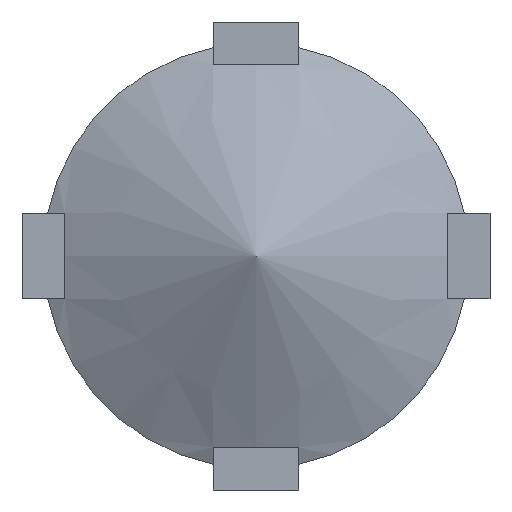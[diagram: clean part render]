
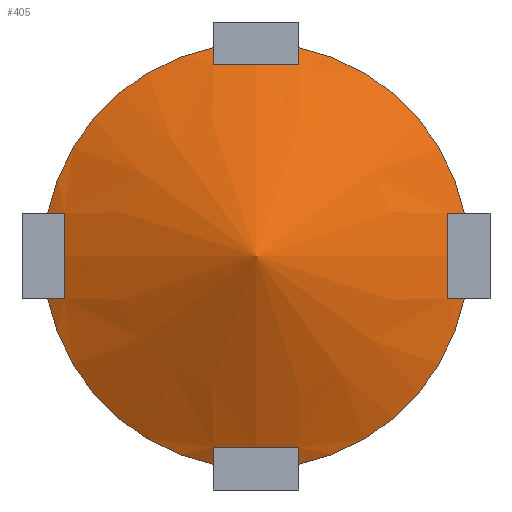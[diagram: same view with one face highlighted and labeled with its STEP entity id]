
A CAD part, front view. The second image highlights one B-rep face of the part: STEP entity #405.
In plain terms, the highlighted conical face has half-angle 65 degrees and reference radius 63.5 mm.
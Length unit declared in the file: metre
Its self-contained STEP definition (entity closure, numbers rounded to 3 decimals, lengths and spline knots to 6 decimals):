
#121=B_SPLINE_CURVE_WITH_KNOTS('',3,(#570,#571,#572,#573),.UNSPECIFIED.,.F.,.F.,(4,4),(0.034745,0.040315),.UNSPECIFIED.);
#122=B_SPLINE_CURVE_WITH_KNOTS('',3,(#575,#576,#577,#578,#579,#580),.UNSPECIFIED.,.F.,.F.,(4,1,1,4),(0.039915,0.052513,0.058812,0.065112),.UNSPECIFIED.);
#123=B_SPLINE_CURVE_WITH_KNOTS('',3,(#582,#583,#584,#585),.UNSPECIFIED.,.F.,.F.,(4,4),(0.034745,0.040315),.UNSPECIFIED.);
#124=B_SPLINE_CURVE_WITH_KNOTS('',3,(#589,#590,#591,#592),.UNSPECIFIED.,.F.,.F.,(4,4),(0.034745,0.040315),.UNSPECIFIED.);
#125=B_SPLINE_CURVE_WITH_KNOTS('',3,(#594,#595,#596,#597,#598,#599),.UNSPECIFIED.,.F.,.F.,(4,1,1,4),(0.039915,0.052513,0.058812,0.065112),.UNSPECIFIED.);
#126=B_SPLINE_CURVE_WITH_KNOTS('',3,(#601,#602,#603,#604),.UNSPECIFIED.,.F.,.F.,(4,4),(0.034745,0.040315),.UNSPECIFIED.);
#127=B_SPLINE_CURVE_WITH_KNOTS('',3,(#608,#609,#610,#611),.UNSPECIFIED.,.F.,.F.,(4,4),(0.034745,0.040315),.UNSPECIFIED.);
#128=B_SPLINE_CURVE_WITH_KNOTS('',3,(#613,#614,#615,#616,#617,#618),.UNSPECIFIED.,.F.,.F.,(4,1,1,4),(0.039915,0.052513,0.058812,0.065112),.UNSPECIFIED.);
#129=B_SPLINE_CURVE_WITH_KNOTS('',3,(#620,#621,#622,#623),.UNSPECIFIED.,.F.,.F.,(4,4),(0.034745,0.040315),.UNSPECIFIED.);
#130=B_SPLINE_CURVE_WITH_KNOTS('',3,(#627,#628,#629,#630),.UNSPECIFIED.,.F.,.F.,(4,4),(0.034745,0.040315),.UNSPECIFIED.);
#131=B_SPLINE_CURVE_WITH_KNOTS('',3,(#632,#633,#634,#635,#636,#637),.UNSPECIFIED.,.F.,.F.,(4,1,1,4),(0.039915,0.052513,0.058812,0.065112),.UNSPECIFIED.);
#132=B_SPLINE_CURVE_WITH_KNOTS('',3,(#639,#640,#641,#642),.UNSPECIFIED.,.F.,.F.,(4,4),(0.034745,0.040315),.UNSPECIFIED.);
#133=ORIENTED_EDGE('',*,*,#253,.T.);
#134=ORIENTED_EDGE('',*,*,#254,.T.);
#135=ORIENTED_EDGE('',*,*,#255,.T.);
#136=ORIENTED_EDGE('',*,*,#256,.F.);
#137=ORIENTED_EDGE('',*,*,#257,.T.);
#138=ORIENTED_EDGE('',*,*,#258,.T.);
#139=ORIENTED_EDGE('',*,*,#259,.T.);
#140=ORIENTED_EDGE('',*,*,#260,.F.);
#141=ORIENTED_EDGE('',*,*,#261,.T.);
#142=ORIENTED_EDGE('',*,*,#262,.T.);
#143=ORIENTED_EDGE('',*,*,#263,.F.);
#144=ORIENTED_EDGE('',*,*,#264,.F.);
#145=ORIENTED_EDGE('',*,*,#265,.T.);
#146=ORIENTED_EDGE('',*,*,#266,.T.);
#147=ORIENTED_EDGE('',*,*,#267,.F.);
#148=ORIENTED_EDGE('',*,*,#268,.F.);
#253=EDGE_CURVE('',#340,#341,#313,.T.);
#254=EDGE_CURVE('',#341,#342,#121,.T.);
#255=EDGE_CURVE('',#342,#343,#122,.T.);
#256=EDGE_CURVE('',#344,#343,#123,.T.);
#257=EDGE_CURVE('',#344,#345,#314,.T.);
#258=EDGE_CURVE('',#345,#346,#124,.T.);
#259=EDGE_CURVE('',#346,#347,#125,.T.);
#260=EDGE_CURVE('',#348,#347,#126,.T.);
#261=EDGE_CURVE('',#348,#349,#315,.T.);
#262=EDGE_CURVE('',#349,#350,#127,.T.);
#263=EDGE_CURVE('',#351,#350,#128,.T.);
#264=EDGE_CURVE('',#352,#351,#129,.T.);
#265=EDGE_CURVE('',#352,#353,#316,.T.);
#266=EDGE_CURVE('',#353,#354,#130,.T.);
#267=EDGE_CURVE('',#355,#354,#131,.T.);
#268=EDGE_CURVE('',#340,#355,#132,.T.);
#313=CIRCLE('',#441,0.0635);
#314=CIRCLE('',#442,0.0635);
#315=CIRCLE('',#443,0.0635);
#316=CIRCLE('',#444,0.0635);
#317=EDGE_LOOP('',(#133,#134,#135,#136,#137,#138,#139,#140,#141,#142,#143,#144,#145,#146,#147,#148));
#339=VERTEX_POINT('',#566);
#340=VERTEX_POINT('',#568);
#341=VERTEX_POINT('',#569);
#342=VERTEX_POINT('',#574);
#343=VERTEX_POINT('',#581);
#344=VERTEX_POINT('',#586);
#345=VERTEX_POINT('',#588);
#346=VERTEX_POINT('',#593);
#347=VERTEX_POINT('',#600);
#348=VERTEX_POINT('',#605);
#349=VERTEX_POINT('',#607);
#350=VERTEX_POINT('',#612);
#351=VERTEX_POINT('',#619);
#352=VERTEX_POINT('',#624);
#353=VERTEX_POINT('',#626);
#354=VERTEX_POINT('',#631);
#355=VERTEX_POINT('',#638);
#380=VERTEX_LOOP('',#339);
#381=FACE_BOUND('',#380,.T.);
#382=FACE_BOUND('',#317,.T.);
#404=CONICAL_SURFACE('',#440,0.0635,1.134);
#405=ADVANCED_FACE('',(#381,#382),#404,.T.);
#440=AXIS2_PLACEMENT_3D('',#565,#468,#469);
#441=AXIS2_PLACEMENT_3D('',#567,#470,#471);
#442=AXIS2_PLACEMENT_3D('',#587,#472,#473);
#443=AXIS2_PLACEMENT_3D('',#606,#474,#475);
#444=AXIS2_PLACEMENT_3D('',#625,#476,#477);
#468=DIRECTION('',(0.,1.,0.));
#469=DIRECTION('',(1.,0.,0.));
#470=DIRECTION('',(0.,-1.,0.));
#471=DIRECTION('',(-1.,0.,0.));
#472=DIRECTION('',(0.,-1.,0.));
#473=DIRECTION('',(-1.,0.,0.));
#474=DIRECTION('',(0.,-1.,0.));
#475=DIRECTION('',(-1.,0.,0.));
#476=DIRECTION('',(0.,-1.,0.));
#477=DIRECTION('',(-1.,0.,0.));
#565=CARTESIAN_POINT('',(0.,-0.003461,0.));
#566=CARTESIAN_POINT('',(0.,-0.033071,0.));
#567=CARTESIAN_POINT('',(0.,-0.003461,0.));
#568=CARTESIAN_POINT('',(-0.0127,-0.003461,0.062217));
#569=CARTESIAN_POINT('',(-0.062217,-0.003461,0.0127));
#570=CARTESIAN_POINT('',(-0.062217,-0.003461,0.0127));
#571=CARTESIAN_POINT('',(-0.060529,-0.004232,0.0127));
#572=CARTESIAN_POINT('',(-0.05884,-0.005003,0.0127));
#573=CARTESIAN_POINT('',(-0.05715,-0.005772,0.0127));
#574=CARTESIAN_POINT('',(-0.05715,-0.005772,0.0127));
#575=CARTESIAN_POINT('',(-0.05715,-0.005772,0.0127));
#576=CARTESIAN_POINT('',(-0.05715,-0.006195,0.008511));
#577=CARTESIAN_POINT('',(-0.05715,-0.006534,0.002172));
#578=CARTESIAN_POINT('',(-0.05715,-0.006311,-0.006379));
#579=CARTESIAN_POINT('',(-0.05715,-0.005984,-0.010598));
#580=CARTESIAN_POINT('',(-0.05715,-0.005772,-0.0127));
#581=CARTESIAN_POINT('',(-0.05715,-0.005772,-0.0127));
#582=CARTESIAN_POINT('',(-0.062217,-0.003461,-0.0127));
#583=CARTESIAN_POINT('',(-0.060529,-0.004232,-0.0127));
#584=CARTESIAN_POINT('',(-0.05884,-0.005003,-0.0127));
#585=CARTESIAN_POINT('',(-0.05715,-0.005772,-0.0127));
#586=CARTESIAN_POINT('',(-0.062217,-0.003461,-0.0127));
#587=CARTESIAN_POINT('',(0.,-0.003461,0.));
#588=CARTESIAN_POINT('',(-0.0127,-0.003461,-0.062217));
#589=CARTESIAN_POINT('',(-0.0127,-0.003461,-0.062217));
#590=CARTESIAN_POINT('',(-0.0127,-0.004232,-0.060529));
#591=CARTESIAN_POINT('',(-0.0127,-0.005003,-0.05884));
#592=CARTESIAN_POINT('',(-0.0127,-0.005772,-0.05715));
#593=CARTESIAN_POINT('',(-0.0127,-0.005772,-0.05715));
#594=CARTESIAN_POINT('',(-0.0127,-0.005772,-0.05715));
#595=CARTESIAN_POINT('',(-0.008511,-0.006195,-0.05715));
#596=CARTESIAN_POINT('',(-0.002172,-0.006534,-0.05715));
#597=CARTESIAN_POINT('',(0.006379,-0.006311,-0.05715));
#598=CARTESIAN_POINT('',(0.010598,-0.005984,-0.05715));
#599=CARTESIAN_POINT('',(0.0127,-0.005772,-0.05715));
#600=CARTESIAN_POINT('',(0.0127,-0.005772,-0.05715));
#601=CARTESIAN_POINT('',(0.0127,-0.003461,-0.062217));
#602=CARTESIAN_POINT('',(0.0127,-0.004232,-0.060529));
#603=CARTESIAN_POINT('',(0.0127,-0.005003,-0.05884));
#604=CARTESIAN_POINT('',(0.0127,-0.005772,-0.05715));
#605=CARTESIAN_POINT('',(0.0127,-0.003461,-0.062217));
#606=CARTESIAN_POINT('',(0.,-0.003461,0.));
#607=CARTESIAN_POINT('',(0.062217,-0.003461,-0.0127));
#608=CARTESIAN_POINT('',(0.062217,-0.003461,-0.0127));
#609=CARTESIAN_POINT('',(0.060529,-0.004232,-0.0127));
#610=CARTESIAN_POINT('',(0.05884,-0.005003,-0.0127));
#611=CARTESIAN_POINT('',(0.05715,-0.005772,-0.0127));
#612=CARTESIAN_POINT('',(0.05715,-0.005772,-0.0127));
#613=CARTESIAN_POINT('',(0.05715,-0.005772,0.0127));
#614=CARTESIAN_POINT('',(0.05715,-0.006195,0.008511));
#615=CARTESIAN_POINT('',(0.05715,-0.006534,0.002172));
#616=CARTESIAN_POINT('',(0.05715,-0.006311,-0.006379));
#617=CARTESIAN_POINT('',(0.05715,-0.005984,-0.010598));
#618=CARTESIAN_POINT('',(0.05715,-0.005772,-0.0127));
#619=CARTESIAN_POINT('',(0.05715,-0.005772,0.0127));
#620=CARTESIAN_POINT('',(0.062217,-0.003461,0.0127));
#621=CARTESIAN_POINT('',(0.060529,-0.004232,0.0127));
#622=CARTESIAN_POINT('',(0.05884,-0.005003,0.0127));
#623=CARTESIAN_POINT('',(0.05715,-0.005772,0.0127));
#624=CARTESIAN_POINT('',(0.062217,-0.003461,0.0127));
#625=CARTESIAN_POINT('',(0.,-0.003461,0.));
#626=CARTESIAN_POINT('',(0.0127,-0.003461,0.062217));
#627=CARTESIAN_POINT('',(0.0127,-0.003461,0.062217));
#628=CARTESIAN_POINT('',(0.0127,-0.004232,0.060529));
#629=CARTESIAN_POINT('',(0.0127,-0.005003,0.05884));
#630=CARTESIAN_POINT('',(0.0127,-0.005772,0.05715));
#631=CARTESIAN_POINT('',(0.0127,-0.005772,0.05715));
#632=CARTESIAN_POINT('',(-0.0127,-0.005772,0.05715));
#633=CARTESIAN_POINT('',(-0.008511,-0.006195,0.05715));
#634=CARTESIAN_POINT('',(-0.002172,-0.006534,0.05715));
#635=CARTESIAN_POINT('',(0.006379,-0.006311,0.05715));
#636=CARTESIAN_POINT('',(0.010598,-0.005984,0.05715));
#637=CARTESIAN_POINT('',(0.0127,-0.005772,0.05715));
#638=CARTESIAN_POINT('',(-0.0127,-0.005772,0.05715));
#639=CARTESIAN_POINT('',(-0.0127,-0.003461,0.062217));
#640=CARTESIAN_POINT('',(-0.0127,-0.004232,0.060529));
#641=CARTESIAN_POINT('',(-0.0127,-0.005003,0.05884));
#642=CARTESIAN_POINT('',(-0.0127,-0.005772,0.05715));
